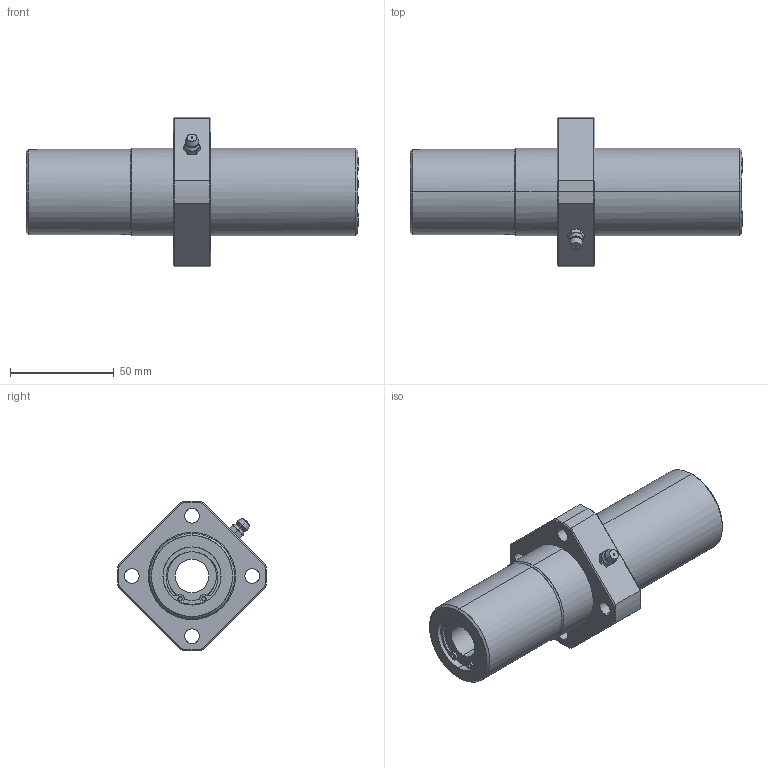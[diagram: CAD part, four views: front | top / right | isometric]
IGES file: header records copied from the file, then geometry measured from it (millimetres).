
Global section: file name: No Iges File Name specified; native system: AutoDesk Inventor R10; preprocessor: AutoDesk Inventor Iges Exporter R10; author: No Author specified; organization: No Organization specified; date: 20101214.141613; units: millimetre
Bounding box: 160 x 71.91 x 72 mm (x, y, z)
Surface area: 41294.9 mm2 (no closed solid volume)
Topology: 0 solids, 0 shells, 186 faces, 1219 edges, 1217 vertices
Faces by surface type: bspline 186
